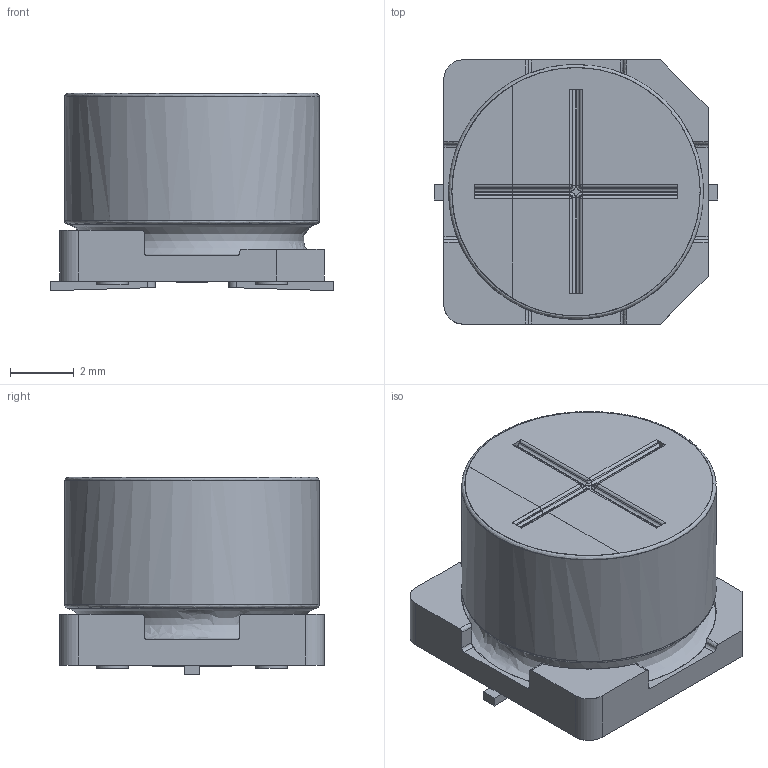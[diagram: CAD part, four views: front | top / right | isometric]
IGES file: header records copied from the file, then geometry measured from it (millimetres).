
Start section: JAMA-IS VERSION  1.0
Bounding box: 8.9 x 8.3 x 6.2 mm (x, y, z)
Surface area: 445.7 mm2 (no closed solid volume)
Topology: 0 solids, 0 shells, 132 faces, 1288 edges, 1270 vertices
Faces by surface type: bspline 132
